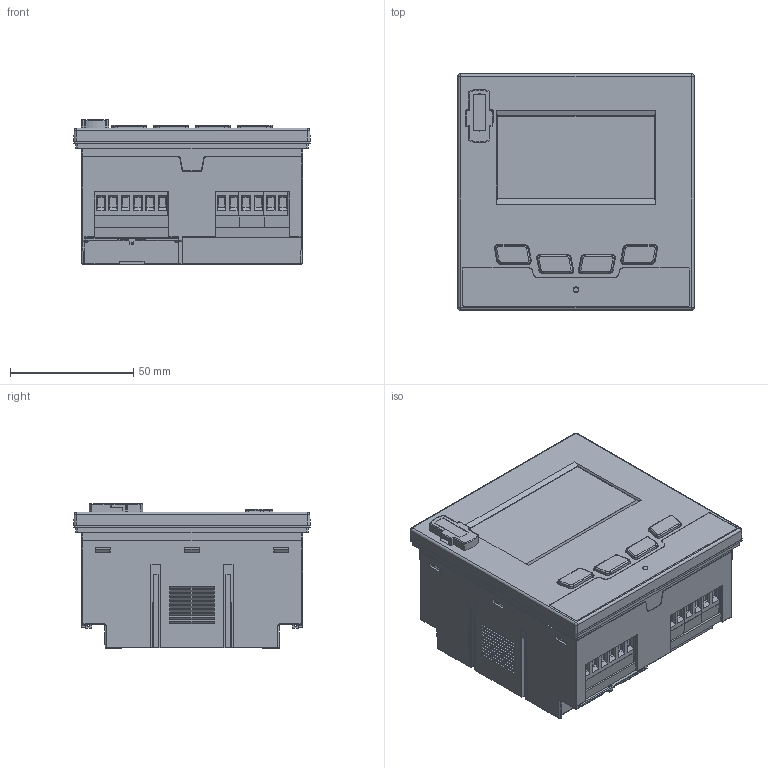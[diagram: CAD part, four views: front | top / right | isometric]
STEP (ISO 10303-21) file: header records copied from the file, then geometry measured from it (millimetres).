
FILE_DESCRIPTION(/* description */ (''),/* implementation_level */ '2;1');
FILE_NAME(/* name */ 'Z:\Meccanica\WM15\Presentazione\WM1596_Assieme_sigilli chiusi.stp',/* time_stamp */ '2019-03-19T10:57:11+01:00',/* author */ ('dfregona'),/* organization */ (''),/* preprocessor_version */ 'ST-DEVELOPER v17.2',/* originating_system */ 'Autodesk Inventor 2019',/* authorisation */ '');
FILE_SCHEMA (('AUTOMOTIVE_DESIGN { 1 0 10303 214 3 1 1 }'));
Products named in the file (15): WM1596_Assieme_Sol2; MEC1216_FRONTAL COVER WM15_rev1.1(provvisoria); MEC1215_BACK COVER WM15_rev2; MEC1214_TRANSPARENT FRONTAL SHELL WM15_rev3-Test; MEC1219_KEY COVER WM15 - Rev2; Targhetta WM15_29.08.18; MEC1217_TERMINALS SEAL WM15_rev3; 1406111_Guarnizione; msq04002; msq06001; 43-508_ Tact switch MPTCLGP2-V-TR; msq02001; WM1596_Assieme_400V.Cablaggio1; WM1596_Assieme_400V.Cablaggio1_1; Attuatore tasto WM15
Assembly tree (17 placements, depth 3):
  WM1596_Assieme_Sol2
    MEC1216_FRONTAL COVER WM15_rev1.1(provvisoria)
    MEC1215_BACK COVER WM15_rev2
    MEC1214_TRANSPARENT FRONTAL SHELL WM15_rev3-Test
    MEC1219_KEY COVER WM15 - Rev2
    Targhetta WM15_29.08.18
    MEC1217_TERMINALS SEAL WM15_rev3  x2
    1406111_Guarnizione
    msq02001  x2
    msq04002
    msq06001  x2
    43-508_ Tact switch MPTCLGP2-V-TR
    WM1596_Assieme_400V.Cablaggio1
      WM1596_Assieme_400V.Cablaggio1_1
    Attuatore tasto WM15
Bounding box: 96 x 96 x 58.9 mm (x, y, z)
Volume: 94096.5 mm3; surface area: 120344 mm2
Topology: 15 solids, 15 shells, 3810 faces, 10091 edges, 6625 vertices
Faces by surface type: plane 2575, cylinder 474, bspline 341, cone 301, torus 101, sphere 18
Full cylindrical faces by diameter (mm): 1 x1, 1.4 x20, 1.52 x5, 1.65 x1, 1.7 x3, 2 x5, 2.3 x3, 3.85 x20, 4 x25, 4.3 x1, 4.8 x2, 5.2 x1, 7.2 x2
Entity records: 112177 total; most frequent: CARTESIAN_POINT 31837, ORIENTED_EDGE 17248, DIRECTION 15277, EDGE_CURVE 8624, LINE 5969, VECTOR 5969, VERTEX_POINT 5659, AXIS2_PLACEMENT_3D 4654
